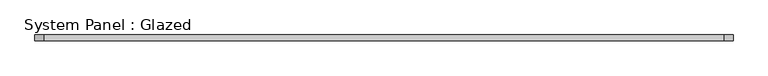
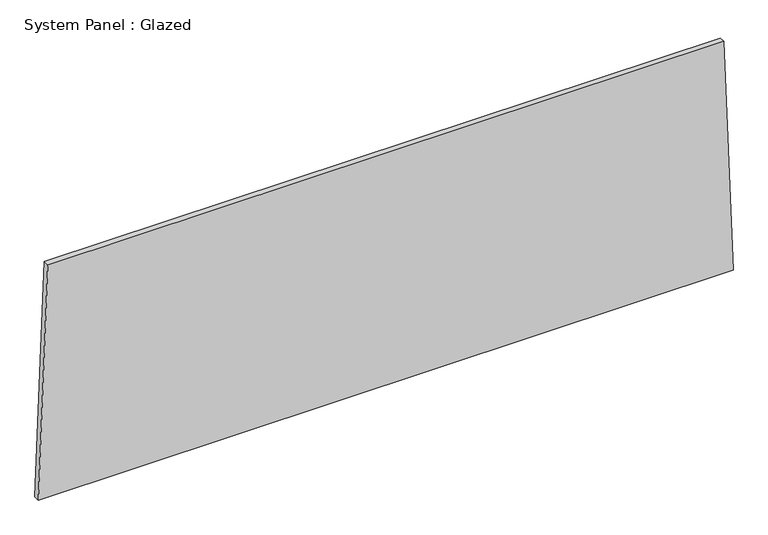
"""IFC4 building model written with IfcOpenShell, lengths in millimetres: plate geometry, System Panel : Glazed."""

from ifc_helpers import new_model, si_unit, frame, origin, place, context, project, spatial, polyline, outline, extrude, source, transform, mapped, element, save


def system_panel_glazed_898c23d1(model_context):
    return source(origin(), model_context, "Body", "SweptSolid", [
        extrude(outline(polyline([(0.0, -1508.6830283), (0.0, 1508.6830283), (1066.0091554, 1467.6133237), (1066.0091554, -1467.6133237), (0.0, -1508.6830283)])), frame((0.0, -44.45, 0.0), z_axis=(0.0, 1.0, 0.0), x_axis=(0.0, 0.0, 1.0)), (0.0, 0.0, 1.0), 25.4),
    ])


if __name__ == "__main__":
    model = new_model("IFC4")
    model_context = context("Model", 3, world=origin())
    ifc_project = project(units=[si_unit("LENGTHUNIT", "METRE", prefix="MILLI")], contexts=[model_context])
    site = spatial("IfcSite", under=ifc_project)
    building = spatial("IfcBuilding", under=site)
    placement = place(None, origin())
    system_panel_glazed_shape = system_panel_glazed_898c23d1(model_context)
    element("IfcPlate", 1, ObjectType="System Panel : Glazed", at=placement, inside=building, context=model_context, shape_type="MappedRepresentation", body=[
        mapped(system_panel_glazed_shape, transform((0.0, 0.0, 0.0), x_axis=(1.0, 0.0, 0.0), y_axis=(0.0, 1.0, 0.0), z_axis=(0.0, 0.0, 1.0))),
    ])
    save(model, "model.ifc")
